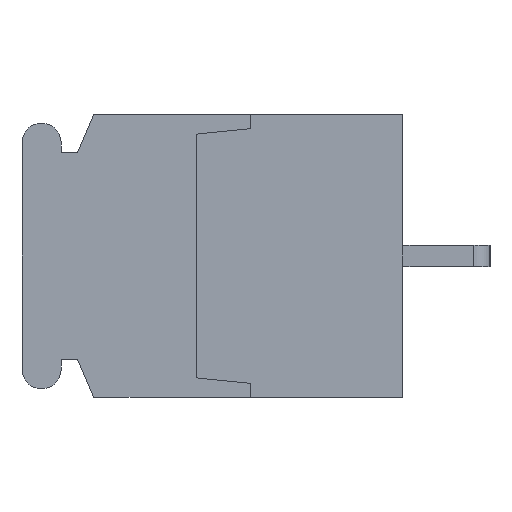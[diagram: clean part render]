
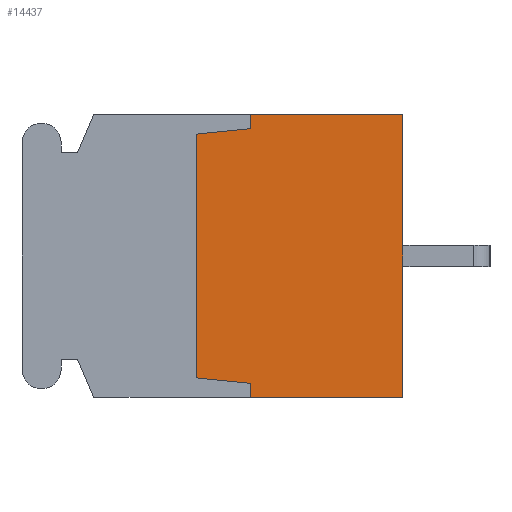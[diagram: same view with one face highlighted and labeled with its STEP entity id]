
A CAD part, left-side view. The second image highlights one B-rep face of the part: STEP entity #14437.
In plain terms, the highlighted planar face has unit normal (-1, 0, 0).
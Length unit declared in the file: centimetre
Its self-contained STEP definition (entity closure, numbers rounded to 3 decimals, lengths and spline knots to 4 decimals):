
#1955=VECTOR('',#17679,1.);
#1956=VECTOR('',#17680,1.);
#1957=VECTOR('',#17681,1.);
#1958=VECTOR('',#17682,1.);
#1959=VECTOR('',#17683,1.);
#1960=VECTOR('',#17684,1.);
#1961=VECTOR('',#17685,1.);
#1962=VECTOR('',#17686,1.);
#3591=LINE('',#22299,#1955);
#3592=LINE('',#22302,#1956);
#3593=LINE('',#22304,#1957);
#3594=LINE('',#22306,#1958);
#3595=LINE('',#22308,#1959);
#3596=LINE('',#22310,#1960);
#3597=LINE('',#22312,#1961);
#3598=LINE('',#22314,#1962);
#5114=VERTEX_POINT('',#22300);
#5115=VERTEX_POINT('',#22301);
#5116=VERTEX_POINT('',#22303);
#5117=VERTEX_POINT('',#22305);
#5118=VERTEX_POINT('',#22307);
#5119=VERTEX_POINT('',#22309);
#5120=VERTEX_POINT('',#22311);
#5121=VERTEX_POINT('',#22313);
#7179=EDGE_CURVE('',#5114,#5115,#3591,.T.);
#7180=EDGE_CURVE('',#5116,#5114,#3592,.T.);
#7181=EDGE_CURVE('',#5117,#5116,#3593,.T.);
#7182=EDGE_CURVE('',#5118,#5117,#3594,.T.);
#7183=EDGE_CURVE('',#5119,#5118,#3595,.T.);
#7184=EDGE_CURVE('',#5120,#5119,#3596,.T.);
#7185=EDGE_CURVE('',#5121,#5120,#3597,.T.);
#7186=EDGE_CURVE('',#5115,#5121,#3598,.T.);
#10869=ORIENTED_EDGE('',*,*,#7179,.F.);
#10870=ORIENTED_EDGE('',*,*,#7180,.F.);
#10871=ORIENTED_EDGE('',*,*,#7181,.F.);
#10872=ORIENTED_EDGE('',*,*,#7182,.F.);
#10873=ORIENTED_EDGE('',*,*,#7183,.F.);
#10874=ORIENTED_EDGE('',*,*,#7184,.F.);
#10875=ORIENTED_EDGE('',*,*,#7185,.F.);
#10876=ORIENTED_EDGE('',*,*,#7186,.F.);
#12711=EDGE_LOOP('',(#10869,#10870,#10871,#10872,#10873,#10874,#10875,#10876));
#13605=FACE_BOUND('',#12711,.T.);
#14437=ADVANCED_FACE('',(#13605),#15114,.F.);
#15114=PLANE('',#24701);
#17678=DIRECTION('',(1.,0.,0.));
#17679=DIRECTION('',(0.,0.,-1.));
#17680=DIRECTION('',(0.,-1.,0.));
#17681=DIRECTION('',(0.,0.,1.));
#17682=DIRECTION('',(0.,-0.995,0.1));
#17683=DIRECTION('',(0.,0.,1.));
#17684=DIRECTION('',(0.,0.995,0.1));
#17685=DIRECTION('',(0.,0.,1.));
#17686=DIRECTION('',(0.,1.,0.));
#22298=CARTESIAN_POINT('',(-1.07,0.4626,0.));
#22299=CARTESIAN_POINT('',(-1.07,0.,0.65));
#22300=CARTESIAN_POINT('',(-1.07,0.,0.65));
#22301=CARTESIAN_POINT('',(-1.07,0.,-0.65));
#22302=CARTESIAN_POINT('',(-1.07,0.7,0.65));
#22303=CARTESIAN_POINT('',(-1.07,0.7,0.65));
#22304=CARTESIAN_POINT('',(-1.07,0.7,0.585));
#22305=CARTESIAN_POINT('',(-1.07,0.7,0.585));
#22306=CARTESIAN_POINT('',(-1.07,0.95,0.56));
#22307=CARTESIAN_POINT('',(-1.07,0.95,0.56));
#22308=CARTESIAN_POINT('',(-1.07,0.95,-0.56));
#22309=CARTESIAN_POINT('',(-1.07,0.95,-0.56));
#22310=CARTESIAN_POINT('',(-1.07,0.7,-0.585));
#22311=CARTESIAN_POINT('',(-1.07,0.7,-0.585));
#22312=CARTESIAN_POINT('',(-1.07,0.7,-0.65));
#22313=CARTESIAN_POINT('',(-1.07,0.7,-0.65));
#22314=CARTESIAN_POINT('',(-1.07,0.,-0.65));
#24701=AXIS2_PLACEMENT_3D('',#22298,#17678,$);
